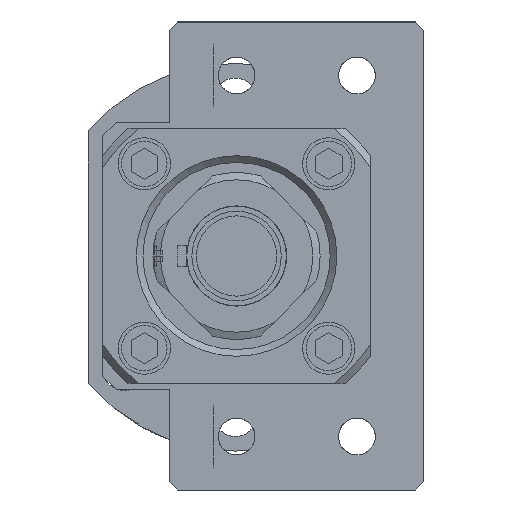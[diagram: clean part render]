
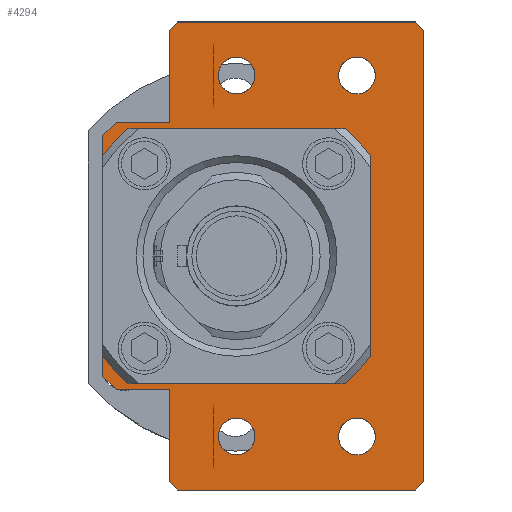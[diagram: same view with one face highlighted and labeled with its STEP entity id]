
A CAD part, left-side view. The second image highlights one B-rep face of the part: STEP entity #4294.
In plain terms, the highlighted planar face has unit normal (-1, 0, 0) as drawn and (0, 0, 1) by its records, which use the part's own axes.
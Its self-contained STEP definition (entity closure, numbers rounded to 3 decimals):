
#230=FACE_BOUND('',#814,.T.);
#231=FACE_BOUND('',#815,.T.);
#232=FACE_BOUND('',#816,.T.);
#233=FACE_BOUND('',#817,.T.);
#234=FACE_BOUND('',#818,.T.);
#363=PLANE('',#4718);
#531=FACE_OUTER_BOUND('',#813,.T.);
#813=EDGE_LOOP('',(#3326,#3327,#3328,#3329,#3330,#3331,#3332,#3333,#3334,
#3335,#3336,#3337,#3338,#3339));
#814=EDGE_LOOP('',(#3340));
#815=EDGE_LOOP('',(#3341));
#816=EDGE_LOOP('',(#3342));
#817=EDGE_LOOP('',(#3343));
#818=EDGE_LOOP('',(#3344,#3345,#3346,#3347,#3348,#3349,#3350,#3351));
#1065=LINE('',#7115,#1386);
#1129=LINE('',#7479,#1450);
#1132=LINE('',#7484,#1453);
#1134=LINE('',#7488,#1455);
#1136=LINE('',#7492,#1457);
#1138=LINE('',#7496,#1459);
#1140=LINE('',#7500,#1461);
#1142=LINE('',#7505,#1463);
#1145=LINE('',#7510,#1466);
#1147=LINE('',#7513,#1468);
#1148=LINE('',#7516,#1469);
#1150=LINE('',#7520,#1471);
#1152=LINE('',#7523,#1473);
#1153=LINE('',#7524,#1474);
#1154=LINE('',#7529,#1475);
#1155=LINE('',#7533,#1476);
#1156=LINE('',#7537,#1477);
#1157=LINE('',#7540,#1478);
#1386=VECTOR('',#5146,1000.);
#1450=VECTOR('',#5386,1000.);
#1453=VECTOR('',#5391,1000.);
#1455=VECTOR('',#5395,1000.);
#1457=VECTOR('',#5399,1000.);
#1459=VECTOR('',#5403,1000.);
#1461=VECTOR('',#5407,1000.);
#1463=VECTOR('',#5411,1000.);
#1466=VECTOR('',#5416,1000.);
#1468=VECTOR('',#5420,1000.);
#1469=VECTOR('',#5423,1000.);
#1471=VECTOR('',#5427,1000.);
#1473=VECTOR('',#5431,1000.);
#1474=VECTOR('',#5432,1000.);
#1475=VECTOR('',#5435,1000.);
#1476=VECTOR('',#5438,1000.);
#1477=VECTOR('',#5441,1000.);
#1478=VECTOR('',#5444,1000.);
#1701=CIRCLE('',#4601,2.75);
#1703=CIRCLE('',#4606,2.75);
#1705=CIRCLE('',#4611,2.75);
#1707=CIRCLE('',#4616,2.75);
#1762=CIRCLE('',#4719,24.);
#1763=CIRCLE('',#4720,24.);
#1764=CIRCLE('',#4721,24.);
#1765=CIRCLE('',#4722,24.);
#1891=VERTEX_POINT('',#6389);
#1905=VERTEX_POINT('',#6595);
#1919=VERTEX_POINT('',#6801);
#1933=VERTEX_POINT('',#7007);
#1941=VERTEX_POINT('',#7113);
#1942=VERTEX_POINT('',#7114);
#2044=VERTEX_POINT('',#7477);
#2045=VERTEX_POINT('',#7478);
#2046=VERTEX_POINT('',#7483);
#2047=VERTEX_POINT('',#7487);
#2048=VERTEX_POINT('',#7491);
#2049=VERTEX_POINT('',#7495);
#2050=VERTEX_POINT('',#7499);
#2051=VERTEX_POINT('',#7503);
#2052=VERTEX_POINT('',#7504);
#2053=VERTEX_POINT('',#7509);
#2054=VERTEX_POINT('',#7515);
#2055=VERTEX_POINT('',#7519);
#2056=VERTEX_POINT('',#7525);
#2057=VERTEX_POINT('',#7526);
#2058=VERTEX_POINT('',#7528);
#2059=VERTEX_POINT('',#7530);
#2060=VERTEX_POINT('',#7532);
#2061=VERTEX_POINT('',#7534);
#2062=VERTEX_POINT('',#7536);
#2063=VERTEX_POINT('',#7538);
#2315=EDGE_CURVE('',#1891,#1891,#1701,.T.);
#2332=EDGE_CURVE('',#1905,#1905,#1703,.T.);
#2349=EDGE_CURVE('',#1919,#1919,#1705,.T.);
#2366=EDGE_CURVE('',#1933,#1933,#1707,.T.);
#2376=EDGE_CURVE('',#1941,#1942,#1065,.T.);
#2519=EDGE_CURVE('',#2044,#2045,#1129,.T.);
#2522=EDGE_CURVE('',#2045,#2046,#1132,.T.);
#2524=EDGE_CURVE('',#2046,#2047,#1134,.T.);
#2526=EDGE_CURVE('',#2047,#2048,#1136,.T.);
#2528=EDGE_CURVE('',#2048,#2049,#1138,.T.);
#2530=EDGE_CURVE('',#2049,#2050,#1140,.T.);
#2532=EDGE_CURVE('',#2051,#2052,#1142,.T.);
#2535=EDGE_CURVE('',#2052,#2053,#1145,.T.);
#2537=EDGE_CURVE('',#2053,#2044,#1147,.T.);
#2538=EDGE_CURVE('',#2050,#2054,#1148,.T.);
#2540=EDGE_CURVE('',#2055,#2051,#1150,.T.);
#2542=EDGE_CURVE('',#1941,#2055,#1152,.T.);
#2543=EDGE_CURVE('',#2054,#1942,#1153,.T.);
#2544=EDGE_CURVE('',#2056,#2057,#1762,.T.);
#2545=EDGE_CURVE('',#2058,#2057,#1154,.T.);
#2546=EDGE_CURVE('',#2058,#2059,#1763,.T.);
#2547=EDGE_CURVE('',#2060,#2059,#1155,.T.);
#2548=EDGE_CURVE('',#2060,#2061,#1764,.T.);
#2549=EDGE_CURVE('',#2062,#2061,#1156,.T.);
#2550=EDGE_CURVE('',#2062,#2063,#1765,.T.);
#2551=EDGE_CURVE('',#2056,#2063,#1157,.T.);
#3326=ORIENTED_EDGE('',*,*,#2542,.T.);
#3327=ORIENTED_EDGE('',*,*,#2540,.T.);
#3328=ORIENTED_EDGE('',*,*,#2532,.T.);
#3329=ORIENTED_EDGE('',*,*,#2535,.T.);
#3330=ORIENTED_EDGE('',*,*,#2537,.T.);
#3331=ORIENTED_EDGE('',*,*,#2519,.T.);
#3332=ORIENTED_EDGE('',*,*,#2522,.T.);
#3333=ORIENTED_EDGE('',*,*,#2524,.T.);
#3334=ORIENTED_EDGE('',*,*,#2526,.T.);
#3335=ORIENTED_EDGE('',*,*,#2528,.T.);
#3336=ORIENTED_EDGE('',*,*,#2530,.T.);
#3337=ORIENTED_EDGE('',*,*,#2538,.T.);
#3338=ORIENTED_EDGE('',*,*,#2543,.T.);
#3339=ORIENTED_EDGE('',*,*,#2376,.F.);
#3340=ORIENTED_EDGE('',*,*,#2315,.T.);
#3341=ORIENTED_EDGE('',*,*,#2332,.T.);
#3342=ORIENTED_EDGE('',*,*,#2349,.T.);
#3343=ORIENTED_EDGE('',*,*,#2366,.T.);
#3344=ORIENTED_EDGE('',*,*,#2544,.T.);
#3345=ORIENTED_EDGE('',*,*,#2545,.F.);
#3346=ORIENTED_EDGE('',*,*,#2546,.T.);
#3347=ORIENTED_EDGE('',*,*,#2547,.F.);
#3348=ORIENTED_EDGE('',*,*,#2548,.T.);
#3349=ORIENTED_EDGE('',*,*,#2549,.F.);
#3350=ORIENTED_EDGE('',*,*,#2550,.T.);
#3351=ORIENTED_EDGE('',*,*,#2551,.F.);
#4294=ADVANCED_FACE('',(#531,#230,#231,#232,#233,#234),#363,.T.);
#4601=AXIS2_PLACEMENT_3D('',#6390,#5097,#5098);
#4606=AXIS2_PLACEMENT_3D('',#6596,#5110,#5111);
#4611=AXIS2_PLACEMENT_3D('',#6802,#5123,#5124);
#4616=AXIS2_PLACEMENT_3D('',#7008,#5136,#5137);
#4718=AXIS2_PLACEMENT_3D('',#7522,#5429,#5430);
#4719=AXIS2_PLACEMENT_3D('',#7527,#5433,#5434);
#4720=AXIS2_PLACEMENT_3D('',#7531,#5436,#5437);
#4721=AXIS2_PLACEMENT_3D('',#7535,#5439,#5440);
#4722=AXIS2_PLACEMENT_3D('',#7539,#5442,#5443);
#5097=DIRECTION('center_axis',(0.,0.,-1.));
#5098=DIRECTION('ref_axis',(1.,0.,0.));
#5110=DIRECTION('center_axis',(0.,0.,-1.));
#5111=DIRECTION('ref_axis',(1.,0.,0.));
#5123=DIRECTION('center_axis',(0.,0.,-1.));
#5124=DIRECTION('ref_axis',(1.,0.,0.));
#5136=DIRECTION('center_axis',(0.,0.,-1.));
#5137=DIRECTION('ref_axis',(1.,0.,0.));
#5146=DIRECTION('',(1.,0.,0.));
#5386=DIRECTION('',(0.707,-0.707,0.));
#5391=DIRECTION('',(1.,0.,0.));
#5395=DIRECTION('',(0.707,0.707,0.));
#5399=DIRECTION('',(0.,1.,0.));
#5403=DIRECTION('',(-0.707,0.707,0.));
#5407=DIRECTION('',(-1.,0.,0.));
#5411=DIRECTION('',(-1.,0.,0.));
#5416=DIRECTION('',(-0.707,-0.707,0.));
#5420=DIRECTION('',(0.,-1.,0.));
#5423=DIRECTION('',(0.,1.,0.));
#5427=DIRECTION('',(0.,-1.,0.));
#5429=DIRECTION('center_axis',(0.,0.,1.));
#5430=DIRECTION('ref_axis',(1.,0.,0.));
#5431=DIRECTION('',(-0.707,-0.707,0.));
#5432=DIRECTION('',(-0.707,0.707,0.));
#5433=DIRECTION('center_axis',(0.,0.,-1.));
#5434=DIRECTION('ref_axis',(-1.,0.,0.));
#5435=DIRECTION('',(-1.,0.,0.));
#5436=DIRECTION('center_axis',(0.,0.,-1.));
#5437=DIRECTION('ref_axis',(-1.,0.,0.));
#5438=DIRECTION('',(0.,1.,0.));
#5439=DIRECTION('center_axis',(0.,0.,-1.));
#5440=DIRECTION('ref_axis',(-1.,0.,0.));
#5441=DIRECTION('',(1.,0.,0.));
#5442=DIRECTION('center_axis',(0.,0.,-1.));
#5443=DIRECTION('ref_axis',(-1.,0.,0.));
#5444=DIRECTION('',(0.,-1.,0.));
#6389=CARTESIAN_POINT('',(-29.75,0.,0.));
#6390=CARTESIAN_POINT('Origin',(-27.,0.,0.));
#6595=CARTESIAN_POINT('',(24.25,0.,0.));
#6596=CARTESIAN_POINT('Origin',(27.,0.,0.));
#6801=CARTESIAN_POINT('',(-29.75,-18.,0.));
#6802=CARTESIAN_POINT('Origin',(-27.,-18.,0.));
#7007=CARTESIAN_POINT('',(24.25,-18.,0.));
#7008=CARTESIAN_POINT('Origin',(27.,-18.,0.));
#7113=CARTESIAN_POINT('',(-18.,20.,0.));
#7114=CARTESIAN_POINT('',(18.,20.,0.));
#7115=CARTESIAN_POINT('',(18.,20.,0.));
#7477=CARTESIAN_POINT('',(-35.,-26.8,0.));
#7478=CARTESIAN_POINT('',(-33.8,-28.,0.));
#7479=CARTESIAN_POINT('',(-35.,-26.8,0.));
#7483=CARTESIAN_POINT('',(33.8,-28.,0.));
#7484=CARTESIAN_POINT('',(-33.8,-28.,0.));
#7487=CARTESIAN_POINT('',(35.,-26.8,0.));
#7488=CARTESIAN_POINT('',(33.8,-28.,0.));
#7491=CARTESIAN_POINT('',(35.,8.8,0.));
#7492=CARTESIAN_POINT('',(35.,-26.8,0.));
#7495=CARTESIAN_POINT('',(33.8,10.,0.));
#7496=CARTESIAN_POINT('',(35.,8.8,0.));
#7499=CARTESIAN_POINT('',(20.,10.,0.));
#7500=CARTESIAN_POINT('',(33.8,10.,0.));
#7503=CARTESIAN_POINT('',(-20.,10.,0.));
#7504=CARTESIAN_POINT('',(-33.8,10.,0.));
#7505=CARTESIAN_POINT('',(-20.,10.,0.));
#7509=CARTESIAN_POINT('',(-35.,8.8,0.));
#7510=CARTESIAN_POINT('',(-33.8,10.,0.));
#7513=CARTESIAN_POINT('',(-35.,8.8,0.));
#7515=CARTESIAN_POINT('',(20.,18.,0.));
#7516=CARTESIAN_POINT('',(20.,10.,0.));
#7519=CARTESIAN_POINT('',(-20.,18.,0.));
#7520=CARTESIAN_POINT('',(-20.,18.,0.));
#7522=CARTESIAN_POINT('Origin',(0.,0.,0.));
#7523=CARTESIAN_POINT('',(-18.,20.,0.));
#7524=CARTESIAN_POINT('',(20.,18.,0.));
#7525=CARTESIAN_POINT('',(-18.98,14.689,0.));
#7526=CARTESIAN_POINT('',(-13.297,19.98,0.));
#7527=CARTESIAN_POINT('Origin',(0.,0.,0.));
#7528=CARTESIAN_POINT('',(13.297,19.98,0.));
#7529=CARTESIAN_POINT('',(18.98,19.98,0.));
#7530=CARTESIAN_POINT('',(18.98,14.689,0.));
#7531=CARTESIAN_POINT('Origin',(0.,0.,0.));
#7532=CARTESIAN_POINT('',(18.98,-14.689,0.));
#7533=CARTESIAN_POINT('',(18.98,-19.98,0.));
#7534=CARTESIAN_POINT('',(13.297,-19.98,0.));
#7535=CARTESIAN_POINT('Origin',(0.,0.,0.));
#7536=CARTESIAN_POINT('',(-13.297,-19.98,0.));
#7537=CARTESIAN_POINT('',(-18.98,-19.98,0.));
#7538=CARTESIAN_POINT('',(-18.98,-14.689,0.));
#7539=CARTESIAN_POINT('Origin',(0.,0.,0.));
#7540=CARTESIAN_POINT('',(-18.98,19.98,0.));
